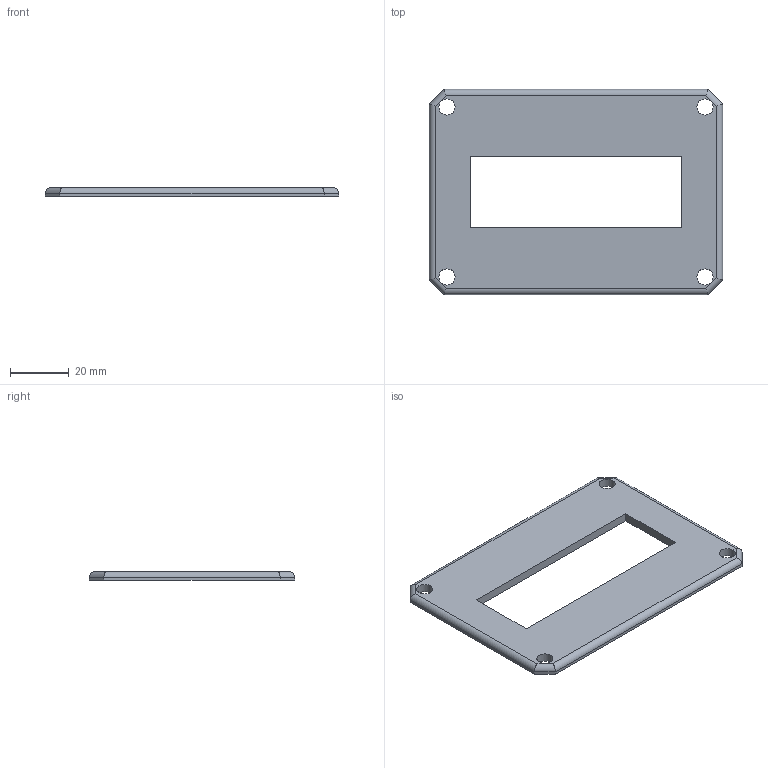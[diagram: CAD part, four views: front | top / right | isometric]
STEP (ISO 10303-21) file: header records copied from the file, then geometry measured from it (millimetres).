
FILE_DESCRIPTION(/* description */ (''),/* implementation_level */ '2;1');
FILE_NAME(/* name */ '[Tutup Depan] IoT Box Suhu v2.stp',/* time_stamp */ '2025-03-15T21:17:28+07:00',/* author */ ('ASUS'),/* organization */ (''),/* preprocessor_version */ 'ST-DEVELOPER v19.2',/* originating_system */ 'Autodesk Inventor 2023',/* authorisation */ '');
FILE_SCHEMA (('AUTOMOTIVE_DESIGN { 1 0 10303 214 3 1 1 }'));
Length unit declared in the file: millimetre
Products named in the file (1): Tutup box depan v2
Bounding box: 100 x 70 x 3 mm (x, y, z)
Volume: 15101.6 mm3; surface area: 11738.5 mm2
Topology: 1 solids, 1 shells, 26 faces, 64 edges, 41 vertices
Faces by surface type: plane 14, cylinder 12
Full cylindrical faces by diameter (mm): 5.5 x4
Entity records: 834 total; most frequent: DIRECTION 134, CARTESIAN_POINT 132, ORIENTED_EDGE 128, EDGE_CURVE 64, LINE 48, VECTOR 48, AXIS2_PLACEMENT_3D 43, VERTEX_POINT 40
